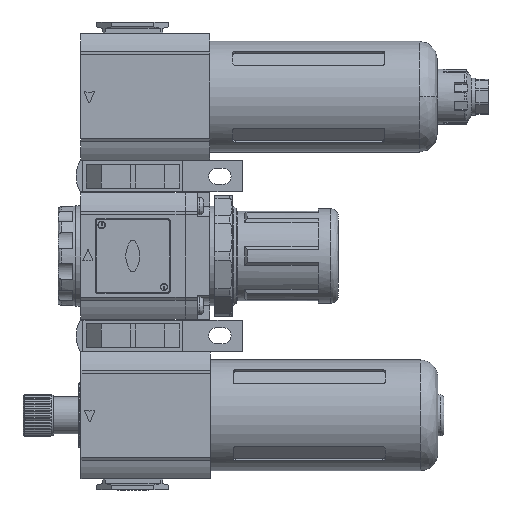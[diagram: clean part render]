
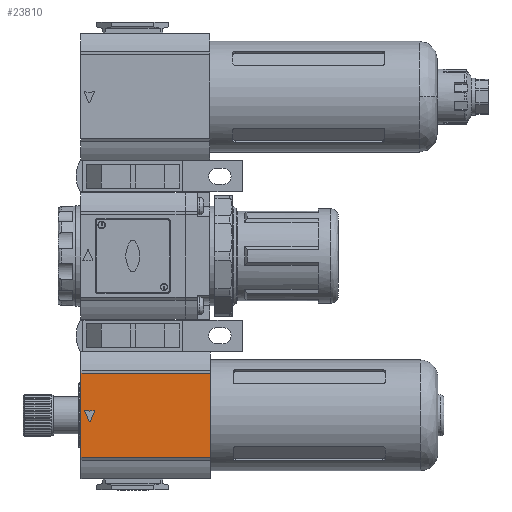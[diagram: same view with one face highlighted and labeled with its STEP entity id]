
A CAD part, left-side view. The second image highlights one B-rep face of the part: STEP entity #23810.
In plain terms, the highlighted planar face has unit normal (-1, 0, 0).
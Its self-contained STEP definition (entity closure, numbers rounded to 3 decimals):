
#1204 = CARTESIAN_POINT ( 'NONE',  ( -26.75, 17.483, -66.38 ) ) ;
#2357 = CARTESIAN_POINT ( 'NONE',  ( -26.75, 19.1, -62.2 ) ) ;
#7742 = VERTEX_POINT ( 'NONE', #82013 ) ;
#7818 = CARTESIAN_POINT ( 'NONE',  ( -26.75, 19.283, -62.28 ) ) ;
#7900 = DIRECTION ( 'NONE',  ( 0., 0., 1. ) ) ;
#8099 = CARTESIAN_POINT ( 'NONE',  ( -26.75, 17.117, -66.38 ) ) ;
#8719 = VERTEX_POINT ( 'NONE', #77457 ) ;
#9620 = CARTESIAN_POINT ( 'NONE',  ( -26.75, -31.2, -47.131 ) ) ;
#10225 = DIRECTION ( 'NONE',  ( 0., -1., 0. ) ) ;
#10649 = FACE_OUTER_BOUND ( 'NONE', #64568, .T. ) ;
#10801 = EDGE_CURVE ( 'NONE', #47196, #7742, #80610, .T. ) ;
#13344 = CARTESIAN_POINT ( 'NONE',  ( -26.75, 20.8, -64. ) ) ;
#13649 = CARTESIAN_POINT ( 'NONE',  ( -26.75, 19.1, -62. ) ) ;
#13703 = CARTESIAN_POINT ( 'NONE',  ( -26.75, -31.2, -80.869 ) ) ;
#14567 = DIRECTION ( 'NONE',  ( 0., 0., 1. ) ) ;
#18175 = DIRECTION ( 'NONE',  ( 1., 0., 0. ) ) ;
#19170 = DIRECTION ( 'NONE',  ( 0., 0., 1. ) ) ;
#19585 = ORIENTED_EDGE ( 'NONE', *, *, #72337, .T. ) ;
#21443 = LINE ( 'NONE', #13344, #63947 ) ;
#21603 = DIRECTION ( 'NONE',  ( 0., 0., 1. ) ) ;
#21674 = CARTESIAN_POINT ( 'NONE',  ( -26.75, 17.483, -66.38 ) ) ;
#23810 = ADVANCED_FACE ( 'NONE', ( #10649, #48645 ), #48613, .T. ) ;
#24771 = VERTEX_POINT ( 'NONE', #13649 ) ;
#24861 = EDGE_CURVE ( 'NONE', #48628, #47196, #21443, .T. ) ;
#30254 = EDGE_CURVE ( 'NONE', #77043, #7742, #85114, .T. ) ;
#35730 = CARTESIAN_POINT ( 'NONE',  ( -26.75, 15.5, -62.2 ) ) ;
#35883 = AXIS2_PLACEMENT_3D ( 'NONE', #35730, #63780, #21603 ) ;
#39556 = AXIS2_PLACEMENT_3D ( 'NONE', #90928, #54790, #19170 ) ;
#42694 = EDGE_CURVE ( 'NONE', #51582, #62412, #72310, .T. ) ;
#44420 = CARTESIAN_POINT ( 'NONE',  ( -26.75, -31.2, -47.131 ) ) ;
#44744 = DIRECTION ( 'NONE',  ( 1., 0., 0. ) ) ;
#45241 = VECTOR ( 'NONE', #71328, 1000. ) ;
#45685 = DIRECTION ( 'NONE',  ( 0., 0., 1. ) ) ;
#46074 = ORIENTED_EDGE ( 'NONE', *, *, #52426, .T. ) ;
#46537 = EDGE_CURVE ( 'NONE', #66366, #92217, #64217, .T. ) ;
#46807 = CIRCLE ( 'NONE', #62644, 0.2 ) ;
#47196 = VERTEX_POINT ( 'NONE', #51798 ) ;
#47455 = LINE ( 'NONE', #56504, #82998 ) ;
#48480 = CIRCLE ( 'NONE', #35883, 0.2 ) ;
#48613 = PLANE ( 'NONE',  #39556 ) ;
#48628 = VERTEX_POINT ( 'NONE', #61530 ) ;
#48645 = FACE_BOUND ( 'NONE', #72828, .T. ) ;
#48936 = VECTOR ( 'NONE', #78492, 1000. ) ;
#49088 = CARTESIAN_POINT ( 'NONE',  ( -26.75, 17.3, -56.276 ) ) ;
#49403 = CIRCLE ( 'NONE', #83053, 6. ) ;
#50172 = ORIENTED_EDGE ( 'NONE', *, *, #10801, .F. ) ;
#50632 = DIRECTION ( 'NONE',  ( -1., 0., 0. ) ) ;
#50644 = VECTOR ( 'NONE', #10225, 1000. ) ;
#51088 = EDGE_CURVE ( 'NONE', #62412, #66366, #46807, .T. ) ;
#51582 = VERTEX_POINT ( 'NONE', #87571 ) ;
#51798 = CARTESIAN_POINT ( 'NONE',  ( -26.75, 20.8, -47.131 ) ) ;
#52426 = EDGE_CURVE ( 'NONE', #48628, #77043, #47455, .T. ) ;
#54790 = DIRECTION ( 'NONE',  ( -1., 0., 0. ) ) ;
#56504 = CARTESIAN_POINT ( 'NONE',  ( -26.75, -31.2, -80.869 ) ) ;
#60394 = CARTESIAN_POINT ( 'NONE',  ( -26.75, 17.3, -66.3 ) ) ;
#61018 = DIRECTION ( 'NONE',  ( 0., 0., 1. ) ) ;
#61530 = CARTESIAN_POINT ( 'NONE',  ( -26.75, 20.8, -80.869 ) ) ;
#62412 = VERTEX_POINT ( 'NONE', #8099 ) ;
#62644 = AXIS2_PLACEMENT_3D ( 'NONE', #60394, #18175, #61018 ) ;
#63780 = DIRECTION ( 'NONE',  ( 1., 0., 0. ) ) ;
#63854 = EDGE_CURVE ( 'NONE', #92217, #24771, #75611, .T. ) ;
#63947 = VECTOR ( 'NONE', #14567, 1000. ) ;
#64217 = LINE ( 'NONE', #21674, #45241 ) ;
#64568 = EDGE_LOOP ( 'NONE', ( #81411, #50172, #65732, #46074 ) ) ;
#65732 = ORIENTED_EDGE ( 'NONE', *, *, #24861, .F. ) ;
#66366 = VERTEX_POINT ( 'NONE', #1204 ) ;
#66464 = ORIENTED_EDGE ( 'NONE', *, *, #51088, .T. ) ;
#67099 = AXIS2_PLACEMENT_3D ( 'NONE', #2357, #44744, #45685 ) ;
#71328 = DIRECTION ( 'NONE',  ( 0., 0.402, 0.916 ) ) ;
#72310 = LINE ( 'NONE', #78183, #48936 ) ;
#72337 = EDGE_CURVE ( 'NONE', #8719, #51582, #48480, .T. ) ;
#72768 = DIRECTION ( 'NONE',  ( 0., 0., 1. ) ) ;
#72828 = EDGE_LOOP ( 'NONE', ( #91112, #78579, #19585, #85654, #66464, #80585 ) ) ;
#72947 = EDGE_CURVE ( 'NONE', #24771, #8719, #49403, .T. ) ;
#75611 = CIRCLE ( 'NONE', #67099, 0.2 ) ;
#77043 = VERTEX_POINT ( 'NONE', #13703 ) ;
#77457 = CARTESIAN_POINT ( 'NONE',  ( -26.75, 15.5, -62. ) ) ;
#78183 = CARTESIAN_POINT ( 'NONE',  ( -26.75, 15.317, -62.28 ) ) ;
#78492 = DIRECTION ( 'NONE',  ( 0., 0.402, -0.916 ) ) ;
#78579 = ORIENTED_EDGE ( 'NONE', *, *, #72947, .T. ) ;
#80585 = ORIENTED_EDGE ( 'NONE', *, *, #46537, .T. ) ;
#80610 = LINE ( 'NONE', #9620, #50644 ) ;
#81411 = ORIENTED_EDGE ( 'NONE', *, *, #30254, .T. ) ;
#82013 = CARTESIAN_POINT ( 'NONE',  ( -26.75, -31.2, -47.131 ) ) ;
#82998 = VECTOR ( 'NONE', #91684, 1000. ) ;
#83053 = AXIS2_PLACEMENT_3D ( 'NONE', #49088, #50632, #7900 ) ;
#85114 = LINE ( 'NONE', #44420, #90788 ) ;
#85654 = ORIENTED_EDGE ( 'NONE', *, *, #42694, .T. ) ;
#87571 = CARTESIAN_POINT ( 'NONE',  ( -26.75, 15.317, -62.28 ) ) ;
#90788 = VECTOR ( 'NONE', #72768, 1000. ) ;
#90928 = CARTESIAN_POINT ( 'NONE',  ( -26.75, -31.2, -47.131 ) ) ;
#91112 = ORIENTED_EDGE ( 'NONE', *, *, #63854, .T. ) ;
#91684 = DIRECTION ( 'NONE',  ( 0., -1., 0. ) ) ;
#92217 = VERTEX_POINT ( 'NONE', #7818 ) ;
